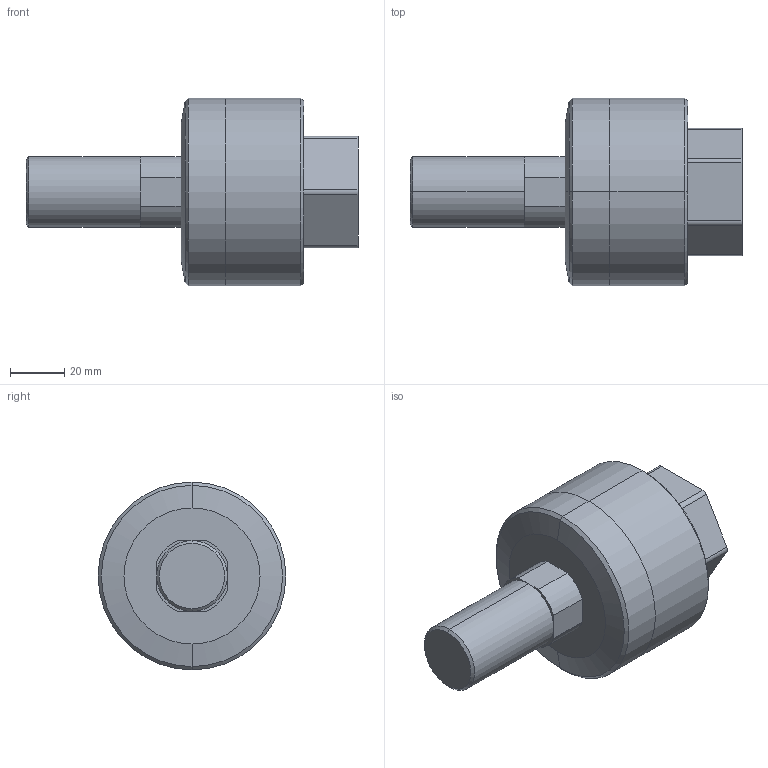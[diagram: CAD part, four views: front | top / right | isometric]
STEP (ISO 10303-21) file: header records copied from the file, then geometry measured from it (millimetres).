
FILE_DESCRIPTION (( 'STEP AP203' ), '1' );
FILE_NAME ('FCM26A-1.5.STEP', '2016-03-23T03:42:45', ( 'Sam Lin' ), ( '' ), 'SwSTEP 2.0', 'SolidWorks 2013', '' );
FILE_SCHEMA (( 'CONFIG_CONTROL_DESIGN' ));
Length unit declared in the file: millimetre
Products named in the file (1): FCM26A-1.5
Bounding box: 122 x 69 x 69 mm (x, y, z)
Volume: 215746.5 mm3; surface area: 25830.4 mm2
Topology: 1 solids, 1 shells, 45 faces, 104 edges, 64 vertices
Faces by surface type: plane 19, cylinder 18, cone 8
Entity records: 1351 total; most frequent: DIRECTION 240, CARTESIAN_POINT 214, ORIENTED_EDGE 208, EDGE_CURVE 104, AXIS2_PLACEMENT_3D 90, VERTEX_POINT 64, LINE 60, VECTOR 60
